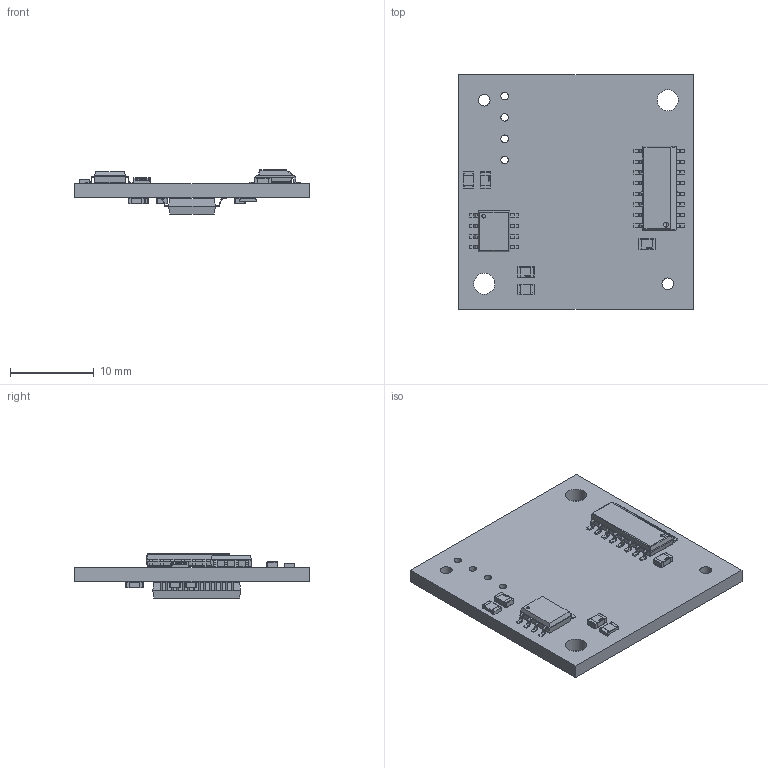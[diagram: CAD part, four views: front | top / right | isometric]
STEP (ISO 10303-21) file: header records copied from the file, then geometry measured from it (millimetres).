
FILE_DESCRIPTION(('Open CASCADE Model'),'2;1');
FILE_NAME('Open CASCADE Shape Model','2021-07-27T14:28:45',('Author'),( 'Open CASCADE'),'Open CASCADE STEP processor 6.8','Open CASCADE 6.8' ,'Unknown');
FILE_SCHEMA(('AUTOMOTIVE_DESIGN { 1 0 10303 214 1 1 1 1 }'));
Length unit declared in the file: millimetre
Products named in the file (23): PCB; Board; C1; C0805; C2; C3; C4; C5; C6; C7; IC2; SW3dPS-SSOP-28; IC3; SW3DPS-SO-8-DEFAULT; L1; SW3dPS-R0805; R2; R3; C8; R1; C9; IC1; SW3dPS-SOIC127P600X175-16
Assembly tree (33 placements, depth 3):
  PCB
    Board
    C1
      C0805
    C2
      C0805
    C3
      C0805
    C4
      C0805
    C5
      C0805
    C6
      C0805
    C7
      C0805
    IC2
      SW3dPS-SSOP-28
    IC3
      SW3DPS-SO-8-DEFAULT
    L1
      SW3dPS-R0805
    R2
      SW3dPS-R0805
    R3
      SW3dPS-R0805
    C8
      C0805
    R1
      SW3dPS-R0805
    C9
      C0805
    IC1
      SW3dPS-SOIC127P600X175-16
Bounding box: 28 x 28 x 5.27 mm (x, y, z)
Volume: 1508 mm3; surface area: 2473.2 mm2
Topology: 72 solids, 72 shells, 2123 faces, 5437 edges, 3465 vertices
Faces by surface type: plane 1090, bspline 540, cylinder 481, sphere 12
Full cylindrical faces by diameter (mm): 0.9 x4, 1.4 x2, 2.5 x2
Entity records: 41574 total; most frequent: CARTESIAN_POINT 10542, ORIENTED_EDGE 5546, DIRECTION 5321, EDGE_CURVE 2773, LINE 2017, VECTOR 2017, VERTEX_POINT 1809, AXIS2_PLACEMENT_3D 1652
